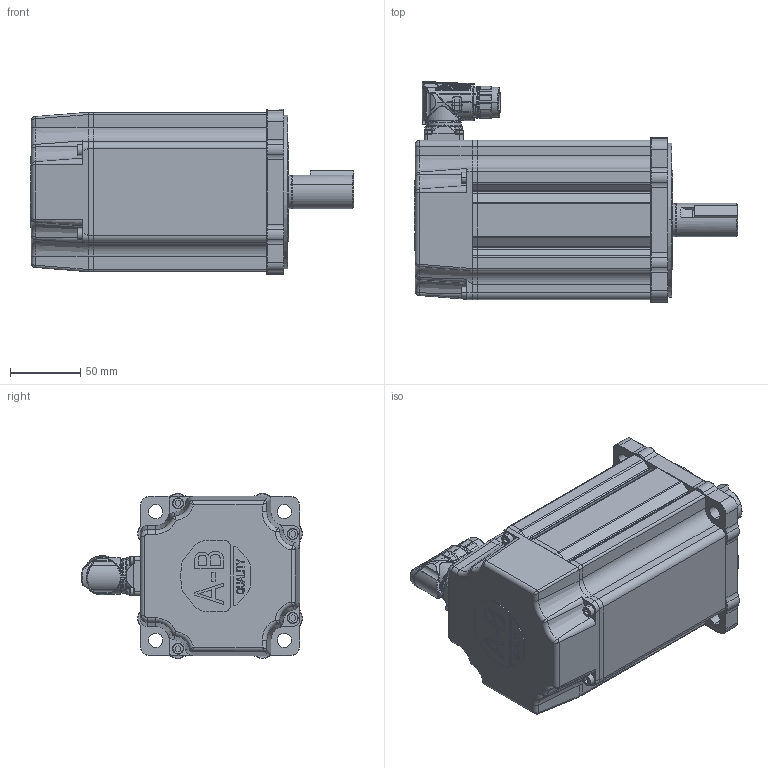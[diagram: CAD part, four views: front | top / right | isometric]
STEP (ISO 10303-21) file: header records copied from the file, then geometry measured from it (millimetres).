
FILE_DESCRIPTION (( 'STEP AP214' ), '1' );
FILE_NAME ('Rockwell Automation-$PARTNUMBER.STEP', '2014-02-17T09:39:21', ( 'Windows User' ), ( '' ), 'SwSTEP 2.0', 'SolidWorks 2014', '' );
FILE_SCHEMA (( 'AUTOMOTIVE_DESIGN' ));
Length unit declared in the file: inch
Products named in the file (9): Rockwell Automation-$PARTNUMBER_Rockwell Automation-VPL-x1303x-xJx2xx_M23_Connector; Rockwell Automation-$PARTNUMBER_Rockwell Automation-VPL-x1303x-xJx2xx_10000014326-M23_ASM; Rockwell Automation-$PARTNUMBER_Rockwell Automation-VPL-x1303x-xJx2xx_10000014326-1; Rockwell Automation-$PARTNUMBER_Rockwell Automation-VPL-x1303x-xJx2xx_10000014325-1; Rockwell Automation-$PARTNUMBER_Rockwell Automation-VPL-x1303x-xJx2xx_10000540833; Rockwell Automation-$PARTNUMBER_Rockwell Automation-VPL-x1303x-xJx2xx_VPL-130-Shaft_1303-SHAFT-KEYED; Rockwell Automation-$PARTNUMBER_Rockwell Automation-VPL-x1303x-xJx2xx_VPL-130-Body_1303; Rockwell Automation-$PARTNUMBER; Rockwell Automation-$PARTNUMBER_Rockwell Automation-VPL-x1303x-xJx2xx_91290A115_ANY
Assembly tree (11 placements, depth 4):
  Rockwell Automation-$PARTNUMBER
    Rockwell Automation-$PARTNUMBER_Rockwell Automation-VPL-x1303x-xJx2xx_VPL-130-Body_1303
    Rockwell Automation-$PARTNUMBER_Rockwell Automation-VPL-x1303x-xJx2xx_VPL-130-Shaft_1303-SHAFT-KEYED
    Rockwell Automation-$PARTNUMBER_Rockwell Automation-VPL-x1303x-xJx2xx_M23_Connector
      Rockwell Automation-$PARTNUMBER_Rockwell Automation-VPL-x1303x-xJx2xx_10000540833
      Rockwell Automation-$PARTNUMBER_Rockwell Automation-VPL-x1303x-xJx2xx_10000014325-1
      Rockwell Automation-$PARTNUMBER_Rockwell Automation-VPL-x1303x-xJx2xx_10000014326-M23_ASM
        Rockwell Automation-$PARTNUMBER_Rockwell Automation-VPL-x1303x-xJx2xx_10000014326-1
    Rockwell Automation-$PARTNUMBER_Rockwell Automation-VPL-x1303x-xJx2xx_91290A115_ANY  x4
Bounding box: 231.11 x 157.88 x 117.86 mm (x, y, z)
Volume: 1016460.1 mm3; surface area: 243644.2 mm2
Topology: 11 solids, 17 shells, 2610 faces, 7240 edges, 4684 vertices
Faces by surface type: cylinder 831, plane 780, bspline 726, cone 255, torus 18
Entity records: 155807 total; most frequent: CARTESIAN_POINT 85877, ORIENTED_EDGE 14029, DIRECTION 8412, EDGE_CURVE 7021, VERTEX_POINT 4582, B_SPLINE_CURVE_WITH_KNOTS 3369, AXIS2_PLACEMENT_3D 3072, EDGE_LOOP 2669
